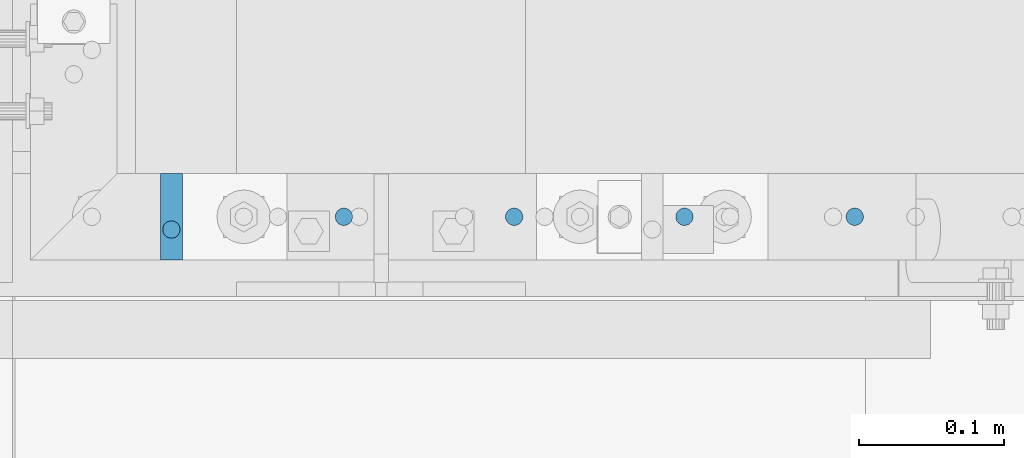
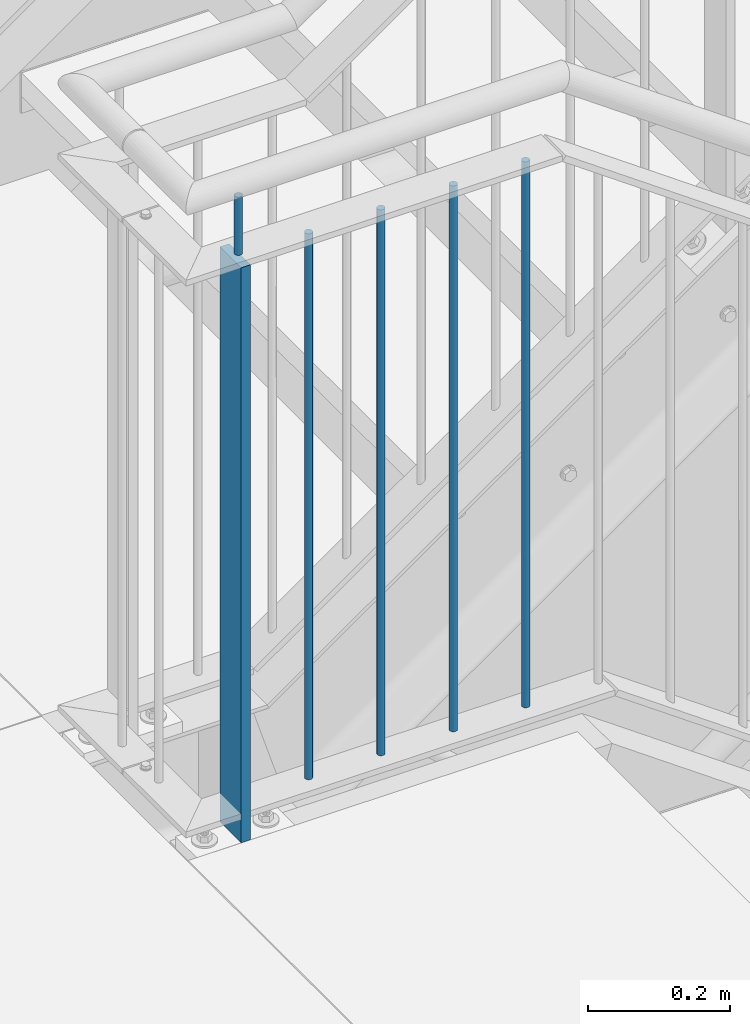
# One storey, part 25 of 831: 6 columns.
"""IFC2X3 building model written with IfcOpenShell, lengths in millimetres."""

from ifc_helpers import new_model, entity, si_unit, converted_unit, frame, origin, origin_with_axes, origin_2d, place, context, project, spatial, rectangle, circle, extrude, clip, halfspace, material, element, save


model = new_model("IFC2X3")

# Units and contexts
model_context = context("Model", 3, precision=1e-09, world=origin_with_axes())
ifc_project = project(units=[si_unit("LENGTHUNIT", "METRE", prefix="MILLI"), si_unit("AREAUNIT", "SQUARE_METRE"), si_unit("VOLUMEUNIT", "CUBIC_METRE"), converted_unit("PLANEANGLEUNIT", "DEGREE", entity("IfcPlaneAngleMeasure", 0.01745329), si_unit("PLANEANGLEUNIT", "RADIAN"), dimensions=[0, 0, 0, 0, 0, 0, 0])], contexts=[model_context])

# Site, building, storey
site_placement = place(None, origin_with_axes())
site = spatial("IfcSite", under=ifc_project, at=site_placement, Name="Site", CompositionType="ELEMENT")
building_placement = place(site_placement, origin_with_axes())
building = spatial("IfcBuilding", under=site, at=building_placement, Name="Struktur 1", CompositionType="ELEMENT")
storey_placement = place(building_placement, origin_with_axes())
storey = spatial("IfcBuildingStorey", under=building, at=storey_placement, Name="Default Storey", CompositionType="ELEMENT", Elevation=0.0)

# Columns
ifc_material = material(Name="S235JR")
column_1_placement = place(None, frame((4711.713402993, 5791.736971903, 4886.723292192), z_axis=(0.0, 0.0, 1.0), x_axis=(-1.0, 0.0, 0.0)))
element("IfcColumn", 1, at=column_1_placement, inside=storey, material=ifc_material, Name="Railing_Post_Landing#3", ObjectType="Railing_Post_Landing#3", context=model_context, shape_type="Clipping", body=[
    clip(clip(extrude(rectangle(XDim=15.0, YDim=60.0, at=origin_2d()), origin(), (0.0, 0.0, -1.0), 1070.646584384), halfspace(frame((4711.713402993, 5791.736971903, -1019.722292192), z_axis=(0.0, 0.0, 1.0), x_axis=(-1.0, 0.0, 0.0)), True)), halfspace(frame((4711.713402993, 5791.736971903, -30.924292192), z_axis=(0.0, 0.0, -1.0), x_axis=(1.0, 0.0, 0.0)), True)),
])
column_2_placement = place(None, frame((5184.21356966, 5791.736971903, 4855.8), z_axis=(0.0, 0.0, 1.0), x_axis=(-1.0, 0.0, 0.0)))
element("IfcColumn", 2, at=column_2_placement, inside=storey, material=ifc_material, Name="Railing_Picket_Landing#17", ObjectType="Railing_Picket_Landing#17", context=model_context, shape_type="SweptSolid", body=[
    extrude(circle(Radius=6.0, at=origin_2d()), origin(), (0.0, 0.0, -1.0), 938.8),
])
column_3_placement = place(None, frame((5066.463514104, 5791.736971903, 4869.285281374), z_axis=(0.0, 0.0, 1.0), x_axis=(-1.0, 0.0, 0.0)))
element("IfcColumn", 3, at=column_3_placement, inside=storey, material=ifc_material, Name="Railing_Picket_Landing#18", ObjectType="Railing_Picket_Landing#18", context=model_context, shape_type="Clipping", body=[
    clip(clip(extrude(circle(Radius=6.0, at=origin_2d()), origin(), (0.0, 0.0, -1.0), 965.770562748), halfspace(frame((5066.463514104, 5791.736971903, -13.486281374), z_axis=(0.0, 0.0, -1.0), x_axis=(1.0, 0.0, 0.0)), True)), halfspace(frame((5066.463514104, 5791.736971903, -952.284281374), z_axis=(0.0, 0.0, 1.0), x_axis=(-1.0, 0.0, 0.0)), True)),
])
column_4_placement = place(None, frame((4948.713458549, 5791.736971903, 4869.285281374), z_axis=(0.0, 0.0, 1.0), x_axis=(-1.0, 0.0, 0.0)))
element("IfcColumn", 4, at=column_4_placement, inside=storey, material=ifc_material, Name="Railing_Picket_Landing#19", ObjectType="Railing_Picket_Landing#19", context=model_context, shape_type="Clipping", body=[
    clip(clip(extrude(circle(Radius=6.0, at=origin_2d()), origin(), (0.0, 0.0, -1.0), 965.770562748), halfspace(frame((4948.713458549, 5791.736971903, -13.486281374), z_axis=(0.0, 0.0, -1.0), x_axis=(1.0, 0.0, 0.0)), True)), halfspace(frame((4948.713458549, 5791.736971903, -952.284281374), z_axis=(0.0, 0.0, 1.0), x_axis=(-1.0, 0.0, 0.0)), True)),
])
column_5_placement = place(None, frame((4830.963402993, 5791.736971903, 4869.285281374), z_axis=(0.0, 0.0, 1.0), x_axis=(-1.0, 0.0, 0.0)))
element("IfcColumn", 5, at=column_5_placement, inside=storey, material=ifc_material, Name="Railing_Picket_Landing#20", ObjectType="Railing_Picket_Landing#20", context=model_context, shape_type="Clipping", body=[
    clip(clip(extrude(circle(Radius=6.0, at=origin_2d()), origin(), (0.0, 0.0, -1.0), 965.770562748), halfspace(frame((4830.963402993, 5791.736971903, -13.486281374), z_axis=(0.0, 0.0, -1.0), x_axis=(1.0, 0.0, 0.0)), True)), halfspace(frame((4830.963402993, 5791.736971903, -952.284281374), z_axis=(0.0, 0.0, 1.0), x_axis=(-1.0, 0.0, 0.0)), True)),
])
column_6_placement = place(None, frame((4711.713402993, 5782.936971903, 4974.285281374), z_axis=(0.0, 0.0, 1.0), x_axis=(0.0, 1.0, 0.0)))
element("IfcColumn", 6, at=column_6_placement, inside=storey, material=ifc_material, Name="Bar#3", ObjectType="Bar#3", context=model_context, shape_type="Clipping", body=[
    clip(clip(extrude(circle(Radius=6.0, at=origin_2d()), origin(), (0.0, 0.0, -1.0), 116.970562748), halfspace(frame((-5782.936971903, 4711.713402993, -8.486281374), z_axis=(0.0, 0.0, -1.0), x_axis=(0.0, 1.0, 0.0)), True)), halfspace(frame((-5782.936971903, 4711.713402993, -108.484281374), z_axis=(0.0, 0.0, 1.0), x_axis=(0.0, -1.0, 0.0)), True)),
])

save(model, "model.ifc")
